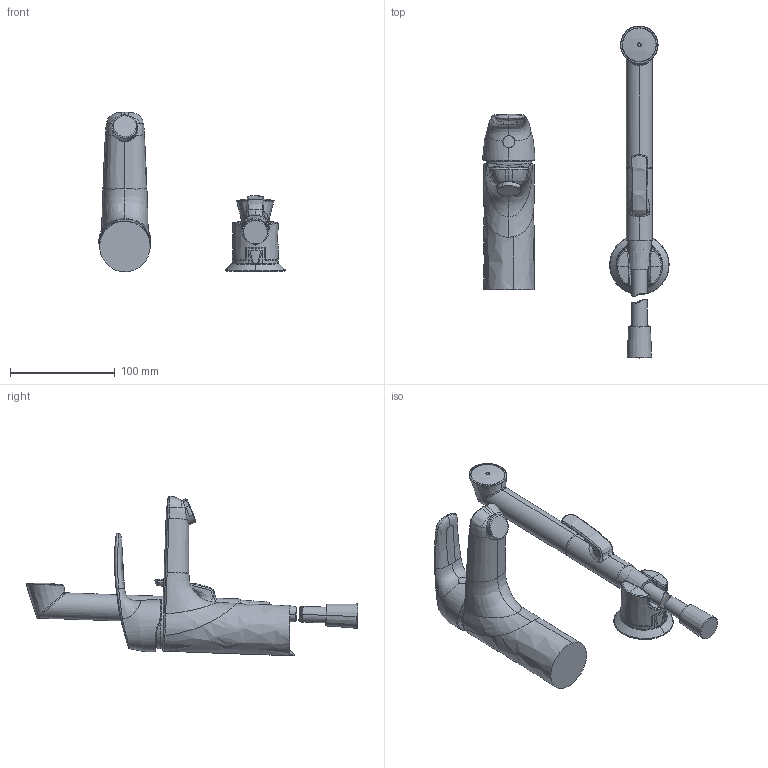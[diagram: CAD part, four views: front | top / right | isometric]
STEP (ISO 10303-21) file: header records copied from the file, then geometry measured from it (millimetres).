
FILE_DESCRIPTION (( 'STEP AP203' ), '1' );
FILE_NAME ('1001FZ(2023).STEP', '2023-02-06T06:58:42', ( '' ), ( '' ), 'SwSTEP 2.0', 'SolidWorks 2016', '' );
FILE_SCHEMA (( 'CONFIG_CONTROL_DESIGN' ));
Length unit declared in the file: millimetre
Products named in the file (1): 1001FZ(2023)
Bounding box: 177.52 x 316.26 x 152.17 mm (x, y, z)
Volume: 603991.5 mm3; surface area: 93847.3 mm2
Topology: 11 solids, 11 shells, 278 faces, 689 edges, 438 vertices
Faces by surface type: bspline 164, plane 39, cylinder 27, torus 24, cone 18, sphere 6
Entity records: 47320 total; most frequent: CARTESIAN_POINT 42120, ORIENTED_EDGE 1374, EDGE_CURVE 687, DIRECTION 582, VERTEX_POINT 438, B_SPLINE_CURVE_WITH_KNOTS 422, EDGE_LOOP 285, ADVANCED_FACE 278
